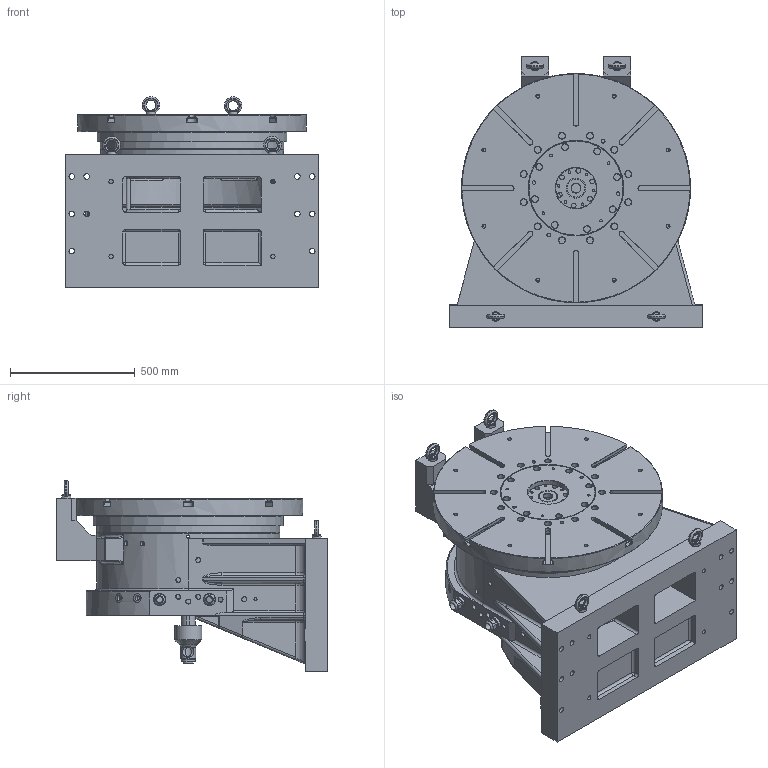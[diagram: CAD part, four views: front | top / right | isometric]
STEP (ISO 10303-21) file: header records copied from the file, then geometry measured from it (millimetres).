
FILE_DESCRIPTION (( 'STEP AP203' ), '1' );
FILE_NAME ('1539046.STEP', '2021-08-25T05:22:06', ( '' ), ( '' ), 'SwSTEP 2.0', 'SolidWorks 2021', '' );
FILE_SCHEMA (( 'CONFIG_CONTROL_DESIGN' ));
Length unit declared in the file: millimetre
Products named in the file (1): 1539046
Bounding box: 1016 x 1090 x 767.06 mm (x, y, z)
Surface area: 6024250.1 mm2 (no closed solid volume)
Topology: 0 solids, 27 shells, 828 faces, 2448 edges, 1576 vertices
Faces by surface type: plane 314, cylinder 277, cone 106, bspline 56, torus 53, sphere 22
Full cylindrical faces by diameter (mm): 6.8 x2, 10.2 x12, 14 x4, 16 x8, 17.5 x12, 19 x14, 20 x6, 22 x18, 26 x20, 30 x2, 33.25 x2, 35 x2, 38 x1, 38.1 x1, 40 x5, 42 x1, 43 x2, 50 x1, 57 x1, 60 x1, 62 x1, 65 x1, 71.8 x1, 78 x1, 80 x1, 108 x1, 120 x1, 165 x1, 380 x1, 735 x1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
Entity records: 35643 total; most frequent: CARTESIAN_POINT 15200, DIRECTION 4181, ORIENTED_EDGE 3775, EDGE_CURVE 2185, AXIS2_PLACEMENT_3D 1645, VERTEX_POINT 1537, EDGE_LOOP 1209, FACE_OUTER_BOUND 963
